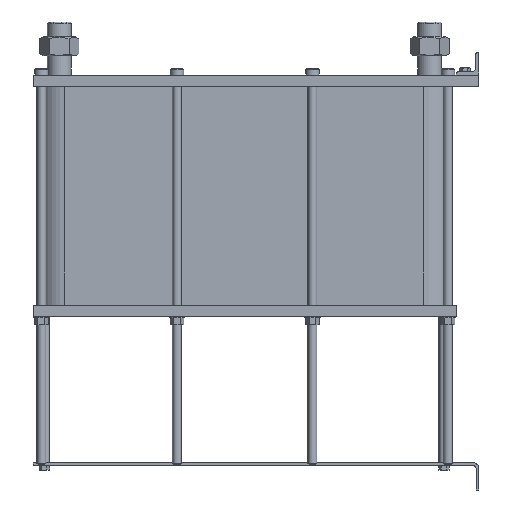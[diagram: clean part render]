
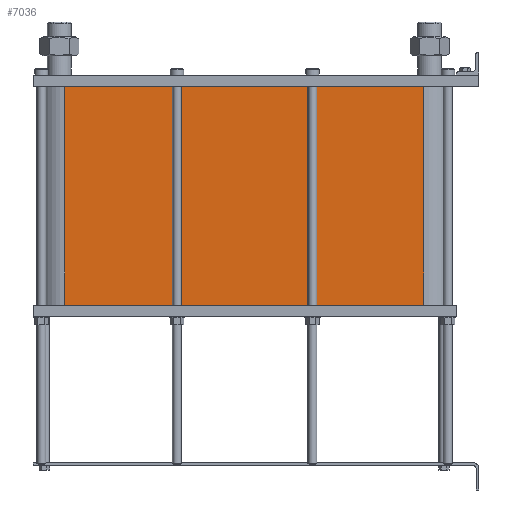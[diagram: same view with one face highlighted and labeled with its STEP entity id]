
A CAD part, left-side view. The second image highlights one B-rep face of the part: STEP entity #7036.
In plain terms, the highlighted planar face has unit normal (-1, 0, 0).
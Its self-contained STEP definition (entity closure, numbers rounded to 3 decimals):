
#999=LINE('',#15640,#1553);
#1031=LINE('',#15723,#1585);
#1032=LINE('',#15726,#1586);
#1033=LINE('',#15727,#1587);
#1553=VECTOR('',#9658,10.);
#1585=VECTOR('',#9736,10.);
#1586=VECTOR('',#9741,10.);
#1587=VECTOR('',#9742,10.);
#2117=FACE_OUTER_BOUND('',#2671,.T.);
#2671=EDGE_LOOP('',(#6246,#6247,#6248,#6249));
#3527=VERTEX_POINT('',#15634);
#3529=VERTEX_POINT('',#15638);
#3556=VERTEX_POINT('',#15720);
#3557=VERTEX_POINT('',#15722);
#4425=EDGE_CURVE('',#3529,#3527,#999,.T.);
#4466=EDGE_CURVE('',#3557,#3556,#1031,.T.);
#4468=EDGE_CURVE('',#3527,#3556,#1032,.T.);
#4469=EDGE_CURVE('',#3557,#3529,#1033,.T.);
#6246=ORIENTED_EDGE('',*,*,#4468,.F.);
#6247=ORIENTED_EDGE('',*,*,#4425,.F.);
#6248=ORIENTED_EDGE('',*,*,#4469,.F.);
#6249=ORIENTED_EDGE('',*,*,#4466,.T.);
#6608=PLANE('',#7812);
#7036=ADVANCED_FACE('',(#2117),#6608,.T.);
#7812=AXIS2_PLACEMENT_3D('',#15725,#9739,#9740);
#9658=DIRECTION('',(0.,0.,-1.));
#9736=DIRECTION('',(0.,0.,-1.));
#9739=DIRECTION('center_axis',(-1.,0.,0.));
#9740=DIRECTION('ref_axis',(0.,1.,0.));
#9741=DIRECTION('',(0.,1.,0.));
#9742=DIRECTION('',(0.,-1.,0.));
#15634=CARTESIAN_POINT('',(-72.,97.5,-387.5));
#15638=CARTESIAN_POINT('',(-72.,97.5,0.));
#15640=CARTESIAN_POINT('',(-72.,97.5,0.));
#15720=CARTESIAN_POINT('',(-72.,733.5,-387.5));
#15722=CARTESIAN_POINT('',(-72.,733.5,0.));
#15723=CARTESIAN_POINT('',(-72.,733.5,0.));
#15725=CARTESIAN_POINT('Origin',(-72.,97.5,0.));
#15726=CARTESIAN_POINT('',(-72.,256.5,-387.5));
#15727=CARTESIAN_POINT('',(-72.,733.5,0.));
